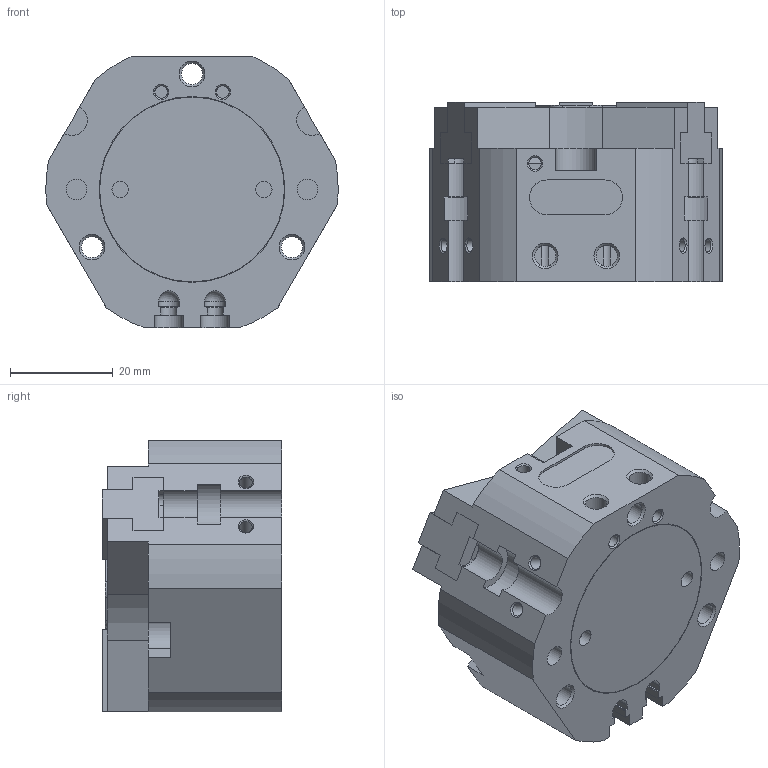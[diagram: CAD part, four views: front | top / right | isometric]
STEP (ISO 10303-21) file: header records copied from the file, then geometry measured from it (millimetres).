
FILE_DESCRIPTION( ( 'STEP AP214' ), '1' );
FILE_NAME( 'C:/Users/ashearer/Desktop/Mindman New CAD/Grippers/MCHJ-50-SD_0_.stp', ' ', ( ' ' ), ( ' ' ), 'PSStep 15.0.47', 'PARTsolutions', ' ' );
FILE_SCHEMA( ( 'AUTOMOTIVE_DESIGN { 1 0 10303 214 1 1 1 1 }' ) );
Length unit declared in the file: millimetre
Products named in the file (4): MCHJ-50-SD(0); _MCHJ-50-SD(dummy_0); _MCHJ-50-SD-body; _MCHJ-50-SD-finger
Assembly tree (5 placements, depth 2):
  MCHJ-50-SD(0)
    _MCHJ-50-SD(dummy_0)
    _MCHJ-50-SD-body
    _MCHJ-50-SD-finger  x3
Bounding box: 57 x 35 x 53 mm (x, y, z)
Volume: 68415.2 mm3; surface area: 21088.6 mm2
Topology: 4 solids, 4 shells, 381 faces, 996 edges, 648 vertices
Faces by surface type: plane 256, cylinder 89, cone 32, sphere 4
Full cylindrical faces by diameter (mm): 2.013 x9, 2.459 x7, 3.2 x2, 4 x2, 4.134 x5, 5 x6, 36 x1, 36.2 x1
Entity records: 10176 total; most frequent: CARTESIAN_POINT 1510, DIRECTION 1350, ORIENTED_EDGE 1276, EDGE_CURVE 638, AXIS2_PLACEMENT_3D 453, VERTEX_POINT 444, LINE 444, VECTOR 444
